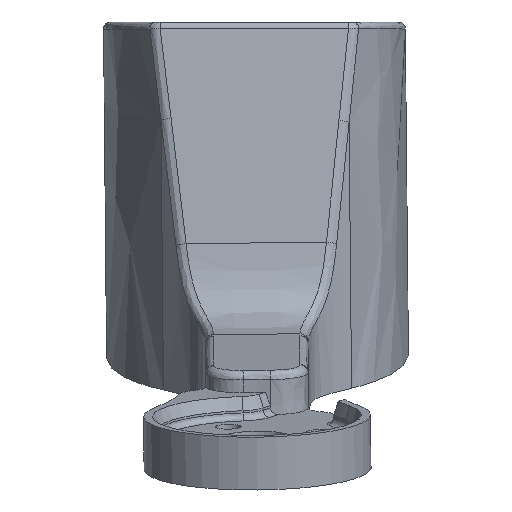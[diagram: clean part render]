
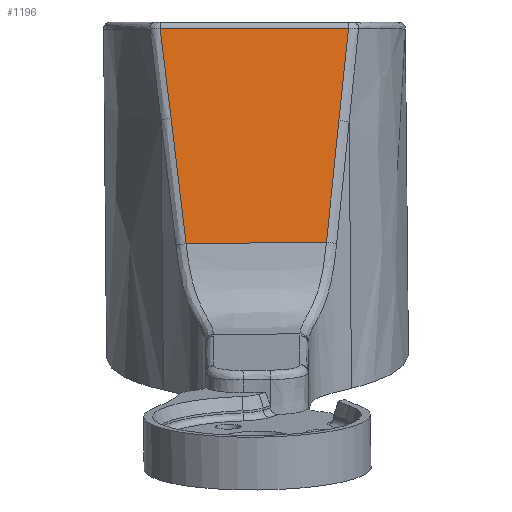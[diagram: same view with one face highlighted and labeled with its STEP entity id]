
A CAD part, top view. The second image highlights one B-rep face of the part: STEP entity #1196.
In plain terms, the highlighted planar face has unit normal (0, 0.087, 0.996) as drawn and (0, -0.087, 0.996) by its records, which use the part's own axes.
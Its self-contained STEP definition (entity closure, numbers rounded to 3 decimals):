
#41=PLANE('',#1272);
#52=LINE('',#1689,#92);
#92=VECTOR('',#1363,10.);
#177=FACE_OUTER_BOUND('',#252,.T.);
#252=EDGE_LOOP('',(#870,#871,#872,#873,#874,#875));
#373=B_SPLINE_CURVE_WITH_KNOTS('',3,(#1876,#1877,#1878,#1879),
 .UNSPECIFIED.,.F.,.F.,(4,4),(0.06,0.881),
 .UNSPECIFIED.);
#378=B_SPLINE_CURVE_WITH_KNOTS('',3,(#1981,#1982,#1983,#1984,#1985,#1986,
#1987,#1988,#1989,#1990,#1991,#1992,#1993,#1994),.UNSPECIFIED.,.F.,.F.,
(4,1,1,1,1,1,1,1,1,1,1,4),(0.881,0.895,1.005,
1.118,1.233,1.35,1.469,1.589,
1.711,1.834,1.957,1.963),
 .UNSPECIFIED.);
#414=B_SPLINE_CURVE_WITH_KNOTS('',3,(#3006,#3007,#3008,#3009,#3010,#3011,
#3012,#3013,#3014,#3015,#3016,#3017,#3018,#3019),.UNSPECIFIED.,.F.,.F.,
(4,1,1,1,1,1,1,1,1,1,1,4),(8.603,8.609,8.717,
8.827,8.938,9.051,9.166,9.282,
9.4,9.52,9.642,9.718),
 .UNSPECIFIED.);
#416=B_SPLINE_CURVE_WITH_KNOTS('',3,(#3044,#3045,#3046,#3047),
 .UNSPECIFIED.,.F.,.F.,(4,4),(9.718,10.522),
 .UNSPECIFIED.);
#418=B_SPLINE_CURVE_WITH_KNOTS('',3,(#3085,#3086,#3087,#3088),
 .UNSPECIFIED.,.F.,.F.,(4,4),(-0.617,0.62),
 .UNSPECIFIED.);
#459=VERTEX_POINT('',#1675);
#461=VERTEX_POINT('',#1687);
#473=VERTEX_POINT('',#1875);
#475=VERTEX_POINT('',#1960);
#497=VERTEX_POINT('',#2867);
#499=VERTEX_POINT('',#2985);
#577=EDGE_CURVE('',#461,#459,#52,.T.);
#595=EDGE_CURVE('',#459,#473,#373,.T.);
#600=EDGE_CURVE('',#473,#475,#378,.T.);
#636=EDGE_CURVE('',#497,#499,#414,.T.);
#638=EDGE_CURVE('',#499,#461,#416,.T.);
#640=EDGE_CURVE('',#475,#497,#418,.T.);
#870=ORIENTED_EDGE('',*,*,#577,.F.);
#871=ORIENTED_EDGE('',*,*,#638,.F.);
#872=ORIENTED_EDGE('',*,*,#636,.F.);
#873=ORIENTED_EDGE('',*,*,#640,.F.);
#874=ORIENTED_EDGE('',*,*,#600,.F.);
#875=ORIENTED_EDGE('',*,*,#595,.F.);
#1196=ADVANCED_FACE('',(#177),#41,.F.);
#1272=AXIS2_PLACEMENT_3D('',#3089,#1382,#1383);
#1363=DIRECTION('',(-1.,0.,0.));
#1382=DIRECTION('center_axis',(0.,0.087,-0.996));
#1383=DIRECTION('ref_axis',(0.,-0.996,-0.087));
#1675=CARTESIAN_POINT('',(-7.986,-34.455,17.021));
#1687=CARTESIAN_POINT('',(8.607,-34.448,17.021));
#1689=CARTESIAN_POINT('',(0.015,-34.451,17.021));
#1875=CARTESIAN_POINT('',(-7.141,-26.322,17.733));
#1876=CARTESIAN_POINT('Ctrl Pts',(-7.986,-34.455,17.021));
#1877=CARTESIAN_POINT('Ctrl Pts',(-7.732,-31.741,17.258));
#1878=CARTESIAN_POINT('Ctrl Pts',(-7.453,-29.03,17.496));
#1879=CARTESIAN_POINT('Ctrl Pts',(-7.141,-26.322,17.733));
#1960=CARTESIAN_POINT('',(-6.056,-15.597,18.671));
#1981=CARTESIAN_POINT('Ctrl Pts',(-7.141,-26.322,17.733));
#1982=CARTESIAN_POINT('Ctrl Pts',(-7.137,-26.278,17.736));
#1983=CARTESIAN_POINT('Ctrl Pts',(-7.093,-25.869,17.772));
#1984=CARTESIAN_POINT('Ctrl Pts',(-7.01,-25.088,17.841));
#1985=CARTESIAN_POINT('Ctrl Pts',(-6.893,-23.971,17.938));
#1986=CARTESIAN_POINT('Ctrl Pts',(-6.774,-22.831,18.038));
#1987=CARTESIAN_POINT('Ctrl Pts',(-6.655,-21.672,18.139));
#1988=CARTESIAN_POINT('Ctrl Pts',(-6.535,-20.494,18.242));
#1989=CARTESIAN_POINT('Ctrl Pts',(-6.416,-19.302,18.347));
#1990=CARTESIAN_POINT('Ctrl Pts',(-6.296,-18.096,18.452));
#1991=CARTESIAN_POINT('Ctrl Pts',(-6.178,-16.879,18.559));
#1992=CARTESIAN_POINT('Ctrl Pts',(-6.098,-16.045,18.632));
#1993=CARTESIAN_POINT('Ctrl Pts',(-6.058,-15.617,18.669));
#1994=CARTESIAN_POINT('Ctrl Pts',(-6.056,-15.597,18.671));
#2867=CARTESIAN_POINT('',(6.311,-15.472,18.681));
#2985=CARTESIAN_POINT('',(7.632,-26.503,17.716));
#3006=CARTESIAN_POINT('Ctrl Pts',(6.311,-15.472,18.681));
#3007=CARTESIAN_POINT('Ctrl Pts',(6.313,-15.491,18.68));
#3008=CARTESIAN_POINT('Ctrl Pts',(6.356,-15.868,18.647));
#3009=CARTESIAN_POINT('Ctrl Pts',(6.44,-16.608,18.582));
#3010=CARTESIAN_POINT('Ctrl Pts',(6.565,-17.695,18.487));
#3011=CARTESIAN_POINT('Ctrl Pts',(6.694,-18.797,18.39));
#3012=CARTESIAN_POINT('Ctrl Pts',(6.826,-19.914,18.293));
#3013=CARTESIAN_POINT('Ctrl Pts',(6.962,-21.048,18.193));
#3014=CARTESIAN_POINT('Ctrl Pts',(7.1,-22.198,18.093));
#3015=CARTESIAN_POINT('Ctrl Pts',(7.243,-23.366,17.991));
#3016=CARTESIAN_POINT('Ctrl Pts',(7.389,-24.553,17.887));
#3017=CARTESIAN_POINT('Ctrl Pts',(7.519,-25.601,17.795));
#3018=CARTESIAN_POINT('Ctrl Pts',(7.6,-26.253,17.738));
#3019=CARTESIAN_POINT('Ctrl Pts',(7.632,-26.503,17.716));
#3044=CARTESIAN_POINT('Ctrl Pts',(7.632,-26.503,17.716));
#3045=CARTESIAN_POINT('Ctrl Pts',(7.985,-29.148,17.485));
#3046=CARTESIAN_POINT('Ctrl Pts',(8.307,-31.796,17.253));
#3047=CARTESIAN_POINT('Ctrl Pts',(8.607,-34.448,17.021));
#3085=CARTESIAN_POINT('Ctrl Pts',(-6.056,-15.597,18.671));
#3086=CARTESIAN_POINT('Ctrl Pts',(-1.933,-15.555,18.674));
#3087=CARTESIAN_POINT('Ctrl Pts',(2.189,-15.514,18.678));
#3088=CARTESIAN_POINT('Ctrl Pts',(6.311,-15.472,18.681));
#3089=CARTESIAN_POINT('Origin',(0.006,-14.36,18.779));
